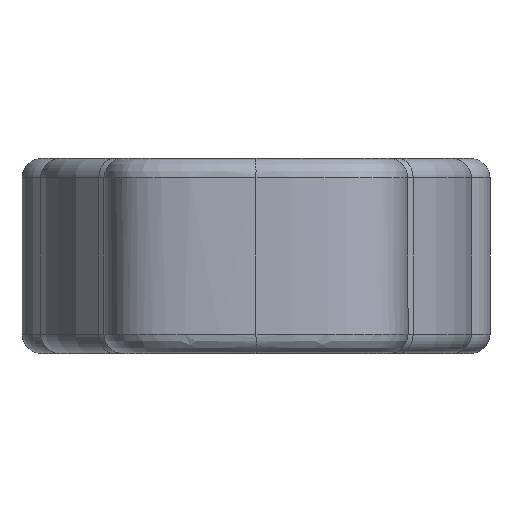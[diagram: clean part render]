
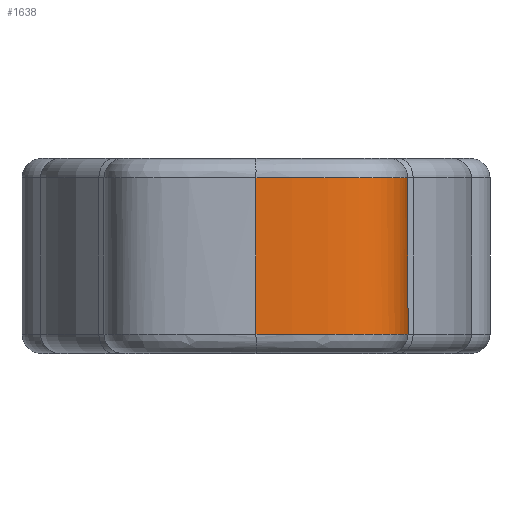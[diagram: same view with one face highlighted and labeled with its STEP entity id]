
A CAD part, front view. The second image highlights one B-rep face of the part: STEP entity #1638.
In plain terms, the highlighted free-form (B-spline) face has degree [3, 1] with [6, 2] control points.
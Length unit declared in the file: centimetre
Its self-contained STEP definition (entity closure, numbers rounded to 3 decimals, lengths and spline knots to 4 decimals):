
#739=B_SPLINE_SURFACE_WITH_KNOTS('',3,1,((#6716,#6717),(#6718,#6719),(#6720,
#6721),(#6722,#6723),(#6724,#6725),(#6726,#6727)),.UNSPECIFIED.,.F.,.F.,
.U.,(4,1,1,4),(2,2),(-0.3628,-0.3083,-0.1681,
0.),(0.,0.3),.UNSPECIFIED.);
#742=B_SPLINE_CURVE_WITH_KNOTS('',3,(#4546,#4547,#4548,#4549,#4550,#4551,
#4552,#4553,#4554,#4555,#4556,#4557,#4558,#4559),.UNSPECIFIED.,.F.,.U.,(4,
2,2,2,2,2,4),(0.,0.0414,0.1076,
0.1501,0.1927,0.2496,0.3227),
.UNSPECIFIED.);
#766=B_SPLINE_CURVE_WITH_KNOTS('',3,(#6588,#6589,#6590,#6591,#6592,#6593,
#6594,#6595,#6596,#6597,#6598,#6599,#6600,#6601,#6602,#6603,#6604,#6605),
.UNSPECIFIED.,.F.,.U.,(4,2,2,2,2,2,2,2,4),(-0.3227,-0.2564,
-0.2151,-0.182,-0.1613,-0.1406,
-0.1076,-0.0546,0.),.UNSPECIFIED.);
#794=VERTEX_POINT('',#4357);
#795=VERTEX_POINT('',#4560);
#839=VERTEX_POINT('',#5770);
#859=VERTEX_POINT('',#6587);
#899=EDGE_CURVE('',#795,#794,#742,.F.);
#1004=EDGE_CURVE('',#859,#839,#766,.T.);
#1054=EDGE_CURVE('',#859,#794,#2447,.T.);
#1055=EDGE_CURVE('',#839,#795,#2448,.T.);
#1388=ORIENTED_EDGE('',*,*,#899,.F.);
#1389=ORIENTED_EDGE('',*,*,#1055,.F.);
#1390=ORIENTED_EDGE('',*,*,#1004,.F.);
#1391=ORIENTED_EDGE('',*,*,#1054,.T.);
#1482=EDGE_LOOP('',(#1388,#1389,#1390,#1391));
#1561=FACE_BOUND('',#1482,.T.);
#1638=ADVANCED_FACE('',(#1561),#739,.T.);
#2447=LINE('',#6715,#3860);
#2448=LINE('',#6728,#3861);
#3860=VECTOR('',#7292,1.);
#3861=VECTOR('',#7293,1.);
#4357=CARTESIAN_POINT('',(0.2275,-1.0512,0.12));
#4546=CARTESIAN_POINT('',(0.2275,-1.0512,0.12));
#4547=CARTESIAN_POINT('',(0.2312,-1.0671,0.12));
#4548=CARTESIAN_POINT('',(0.2331,-1.0825,0.12));
#4549=CARTESIAN_POINT('',(0.2346,-1.1233,0.12));
#4550=CARTESIAN_POINT('',(0.2329,-1.1486,0.12));
#4551=CARTESIAN_POINT('',(0.2174,-1.192,0.12));
#4552=CARTESIAN_POINT('',(0.2051,-1.2118,0.12));
#4553=CARTESIAN_POINT('',(0.1716,-1.2357,0.12));
#4554=CARTESIAN_POINT('',(0.1546,-1.2409,0.12));
#4555=CARTESIAN_POINT('',(0.1174,-1.2498,0.12));
#4556=CARTESIAN_POINT('',(0.0972,-1.2518,0.12));
#4557=CARTESIAN_POINT('',(0.0518,-1.2549,0.12));
#4558=CARTESIAN_POINT('',(0.0281,-1.2561,0.12));
#4559=CARTESIAN_POINT('',(0.,-1.2541,0.12));
#4560=CARTESIAN_POINT('',(0.,-1.2541,0.12));
#5770=CARTESIAN_POINT('',(0.,-1.2541,-0.12));
#6587=CARTESIAN_POINT('',(0.2275,-1.0512,-0.12));
#6588=CARTESIAN_POINT('',(0.2275,-1.0512,-0.12));
#6589=CARTESIAN_POINT('',(0.2335,-1.0766,-0.12));
#6590=CARTESIAN_POINT('',(0.2351,-1.1013,-0.12));
#6591=CARTESIAN_POINT('',(0.232,-1.1424,-0.12));
#6592=CARTESIAN_POINT('',(0.2294,-1.1585,-0.12));
#6593=CARTESIAN_POINT('',(0.2188,-1.1882,-0.12));
#6594=CARTESIAN_POINT('',(0.2112,-1.2029,-0.12));
#6595=CARTESIAN_POINT('',(0.1917,-1.222,-0.12));
#6596=CARTESIAN_POINT('',(0.1833,-1.2276,-0.12));
#6597=CARTESIAN_POINT('',(0.1668,-1.236,-0.12));
#6598=CARTESIAN_POINT('',(0.1587,-1.239,-0.12));
#6599=CARTESIAN_POINT('',(0.1382,-1.2453,-0.12));
#6600=CARTESIAN_POINT('',(0.1259,-1.2476,-0.12));
#6601=CARTESIAN_POINT('',(0.0948,-1.2522,-0.12));
#6602=CARTESIAN_POINT('',(0.0764,-1.2534,-0.12));
#6603=CARTESIAN_POINT('',(0.0392,-1.255,-0.12));
#6604=CARTESIAN_POINT('',(0.021,-1.2556,-0.12));
#6605=CARTESIAN_POINT('',(0.,-1.2541,-0.12));
#6715=CARTESIAN_POINT('',(0.2275,-1.0512,-0.15));
#6716=CARTESIAN_POINT('',(0.,-1.2541,-0.15));
#6717=CARTESIAN_POINT('',(0.,-1.2541,0.15));
#6718=CARTESIAN_POINT('',(0.0184,-1.2554,-0.15));
#6719=CARTESIAN_POINT('',(0.0184,-1.2554,0.15));
#6720=CARTESIAN_POINT('',(0.1132,-1.2541,-0.15));
#6721=CARTESIAN_POINT('',(0.1132,-1.2541,0.15));
#6722=CARTESIAN_POINT('',(0.2368,-1.2275,-0.15));
#6723=CARTESIAN_POINT('',(0.2368,-1.2275,0.15));
#6724=CARTESIAN_POINT('',(0.2385,-1.0975,-0.15));
#6725=CARTESIAN_POINT('',(0.2385,-1.0975,0.15));
#6726=CARTESIAN_POINT('',(0.2275,-1.0512,-0.15));
#6727=CARTESIAN_POINT('',(0.2275,-1.0512,0.15));
#6728=CARTESIAN_POINT('',(0.,-1.2541,-0.15));
#7292=DIRECTION('',(0.,0.,1.));
#7293=DIRECTION('',(0.,0.,1.));
